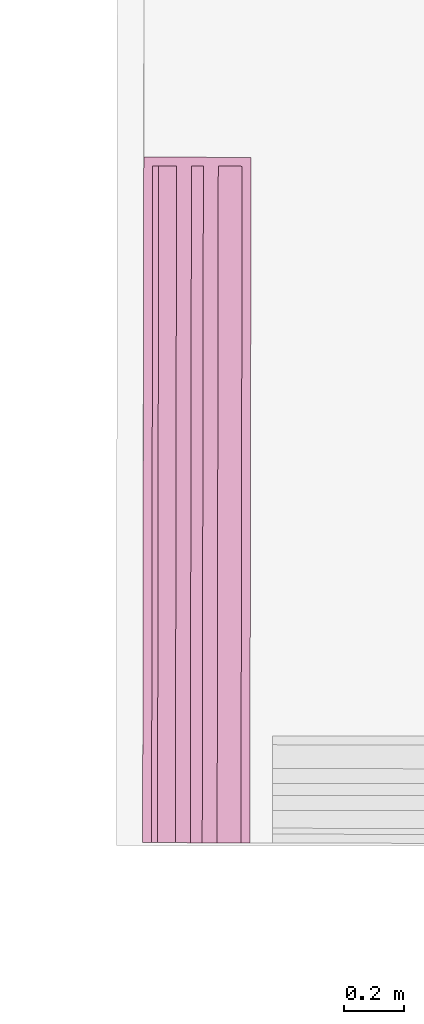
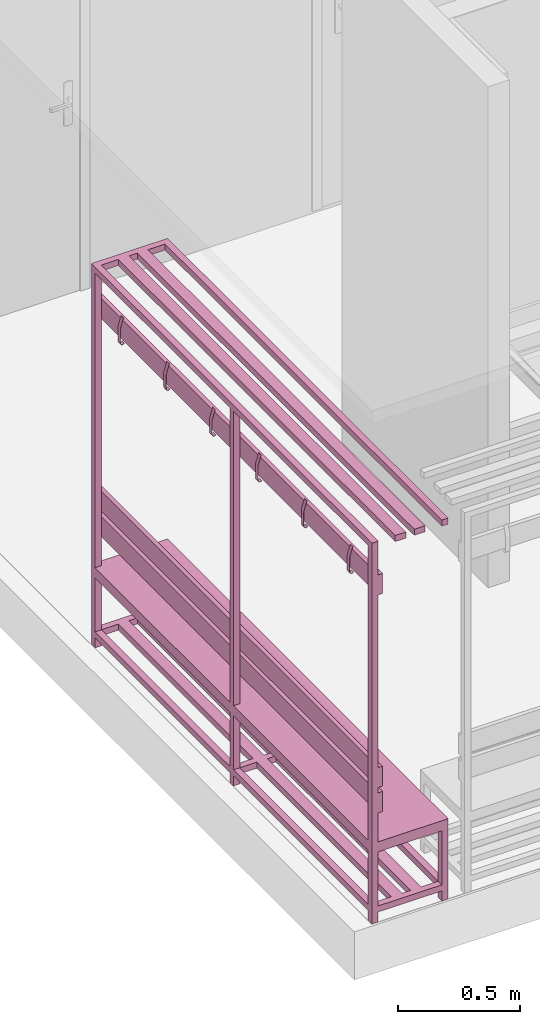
# One storey, part 36 of 43: 1 furnishing.
"""IFC2X3 building model written with IfcOpenShell, lengths in metres."""

from ifc_helpers import new_model, entity, si_unit, converted_unit, derived_unit, direction, frame, frame_2d, origin, origin_2d_with_axis, place, context, subcontext, project, spatial, polyline, circle_curve, parameter, trimmed, segment, composite_curve, rectangle, outline, extrude, source, transform, mapped, material, material_list, type_object, type_shapes, element, save


model = new_model("IFC2X3")

# Units and contexts
model_context = context("Model", 3, precision=1e-05, world=origin(), true_north=direction((6.123233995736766e-17, 1.0)))
body_context = subcontext(model_context, "Body", "Model", "MODEL_VIEW")
ifc_project = project(units=[si_unit("LENGTHUNIT", "METRE"), si_unit("AREAUNIT", "SQUARE_METRE"), converted_unit("PLANEANGLEUNIT", "DEGREE", entity("IfcPlaneAngleMeasure", 0.017453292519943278), si_unit("PLANEANGLEUNIT", "RADIAN"), dimensions=[0, 0, 0, 0, 0, 0, 0]), derived_unit("THERMALTRANSMITTANCEUNIT", [(si_unit("MASSUNIT", "GRAM", prefix="KILO"), 1), (si_unit("THERMODYNAMICTEMPERATUREUNIT", "KELVIN"), -1), (si_unit("TIMEUNIT", "SECOND"), -3)])], contexts=[model_context])

# Site, building, storey
site_placement = place(None, frame((1253.6752467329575, 2072.143113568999, 91.49999999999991), z_axis=(0.0, 0.0, 1.0), x_axis=(0.7237211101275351, 0.6900925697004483, 0.0)))
site = spatial("IfcSite", under=ifc_project, at=site_placement, Name="Surface", CompositionType="ELEMENT")
building_placement = place(site_placement, origin())
building = spatial("IfcBuilding", under=site, at=building_placement, CompositionType="ELEMENT")
storey_placement = place(building_placement, frame((0.0, 0.0, -4.629999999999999)))
storey = spatial("IfcBuildingStorey", under=building, at=storey_placement, Name="rez de rue -1.10m", CompositionType="ELEMENT", Elevation=-4.629999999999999)

# Furnishing
ifc_material_1 = material(Name="Peinture - Grise")
ifc_material_2 = material(Name="<Unnamed>")
ifc_material_3 = material(Name="mat2")
ifc_material_list = material_list([ifc_material_1, ifc_material_2, ifc_material_3])
furniture_type = type_object("IfcFurnitureType", Name="bancpateres:bancpateres", AssemblyPlace="NOTDEFINED", material=ifc_material_list)
shared_shape = source(origin(), body_context, "Body", "SweptSolid", [
    extrude(outline(composite_curve([segment(polyline([(-0.026119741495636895, -0.008725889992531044), (0.04695541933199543, -0.008725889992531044)]), True, "CONTINUOUS"), segment(trimmed(circle_curve(frame_2d((0.04695541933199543, 0.0020852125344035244), x_axis=(-1.0, 0.0)), 0.010811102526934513), [parameter(90.00000000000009)], [parameter(230.9999999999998)], True, "PARAMETER"), True, "CONTINUOUS"), segment(polyline([(0.05375906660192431, 0.010487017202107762), (0.05312974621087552, 0.009709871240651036)]), True, "CONTINUOUS"), segment(trimmed(circle_curve(frame_2d((0.04695541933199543, 0.0020852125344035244), x_axis=(-1.0, 0.0)), 0.009811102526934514), [parameter(90.00000000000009)], [parameter(230.99999999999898)], True, "PARAMETER"), False, "CONTINUOUS"), segment(polyline([(0.04695541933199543, -0.007725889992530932), (-0.025972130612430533, -0.007725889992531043)]), True, "CONTINUOUS"), segment(polyline([(-0.025972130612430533, -0.007725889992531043), (-0.07420942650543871, 0.00683201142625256)]), True, "CONTINUOUS"), segment(polyline([(-0.07420942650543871, 0.00683201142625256), (-0.07449835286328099, 0.005874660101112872)]), True, "CONTINUOUS"), segment(polyline([(-0.07449835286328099, 0.005874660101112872), (-0.026119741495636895, -0.008725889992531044)]), True, "CONTINUOUS")], self_intersect=False)), frame((0.268067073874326, -0.49127411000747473, 6.308572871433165), z_axis=(1.0, 0.0, 0.0), x_axis=(0.0, 0.0, -1.0)), (0.0, 0.0, 1.0), 0.019999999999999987),
    extrude(outline(composite_curve([segment(polyline([(-0.026119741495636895, -0.008725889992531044), (0.04695541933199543, -0.008725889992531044)]), True, "CONTINUOUS"), segment(trimmed(circle_curve(frame_2d((0.04695541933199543, 0.0020852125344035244), x_axis=(-1.0, 0.0)), 0.010811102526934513), [parameter(90.00000000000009)], [parameter(230.9999999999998)], True, "PARAMETER"), True, "CONTINUOUS"), segment(polyline([(0.05375906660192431, 0.010487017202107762), (0.05312974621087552, 0.009709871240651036)]), True, "CONTINUOUS"), segment(trimmed(circle_curve(frame_2d((0.04695541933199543, 0.0020852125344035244), x_axis=(-1.0, 0.0)), 0.009811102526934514), [parameter(90.00000000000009)], [parameter(230.99999999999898)], True, "PARAMETER"), False, "CONTINUOUS"), segment(polyline([(0.04695541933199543, -0.007725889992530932), (-0.025972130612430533, -0.007725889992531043)]), True, "CONTINUOUS"), segment(polyline([(-0.025972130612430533, -0.007725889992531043), (-0.07420942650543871, 0.00683201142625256)]), True, "CONTINUOUS"), segment(polyline([(-0.07420942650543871, 0.00683201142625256), (-0.07449835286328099, 0.005874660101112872)]), True, "CONTINUOUS"), segment(polyline([(-0.07449835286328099, 0.005874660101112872), (-0.026119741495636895, -0.008725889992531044)]), True, "CONTINUOUS")], self_intersect=False)), frame((-0.10793292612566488, -0.49127411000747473, 6.308572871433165), z_axis=(1.0, 0.0, 0.0), x_axis=(0.0, 0.0, -1.0)), (0.0, 0.0, 1.0), 0.020000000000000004),
    extrude(outline(composite_curve([segment(polyline([(-0.026119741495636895, -0.008725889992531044), (0.04695541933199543, -0.008725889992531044)]), True, "CONTINUOUS"), segment(trimmed(circle_curve(frame_2d((0.04695541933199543, 0.0020852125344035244), x_axis=(-1.0, 0.0)), 0.010811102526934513), [parameter(90.00000000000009)], [parameter(230.9999999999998)], True, "PARAMETER"), True, "CONTINUOUS"), segment(polyline([(0.05375906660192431, 0.010487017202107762), (0.05312974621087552, 0.009709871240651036)]), True, "CONTINUOUS"), segment(trimmed(circle_curve(frame_2d((0.04695541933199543, 0.0020852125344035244), x_axis=(-1.0, 0.0)), 0.009811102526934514), [parameter(90.00000000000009)], [parameter(230.99999999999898)], True, "PARAMETER"), False, "CONTINUOUS"), segment(polyline([(0.04695541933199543, -0.007725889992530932), (-0.025972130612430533, -0.007725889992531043)]), True, "CONTINUOUS"), segment(polyline([(-0.025972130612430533, -0.007725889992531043), (-0.07420942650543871, 0.00683201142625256)]), True, "CONTINUOUS"), segment(polyline([(-0.07420942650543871, 0.00683201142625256), (-0.07449835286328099, 0.005874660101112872)]), True, "CONTINUOUS"), segment(polyline([(-0.07449835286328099, 0.005874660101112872), (-0.026119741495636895, -0.008725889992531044)]), True, "CONTINUOUS")], self_intersect=False)), frame((-0.4839329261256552, -0.49127411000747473, 6.308572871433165), z_axis=(1.0, 0.0, 0.0), x_axis=(0.0, 0.0, -1.0)), (0.0, 0.0, 1.0), 0.019999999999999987),
    extrude(outline(composite_curve([segment(polyline([(-0.026119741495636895, -0.008725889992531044), (0.04695541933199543, -0.008725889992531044)]), True, "CONTINUOUS"), segment(trimmed(circle_curve(frame_2d((0.04695541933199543, 0.0020852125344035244), x_axis=(-1.0, 0.0)), 0.010811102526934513), [parameter(90.00000000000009)], [parameter(230.9999999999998)], True, "PARAMETER"), True, "CONTINUOUS"), segment(polyline([(0.05375906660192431, 0.010487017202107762), (0.05312974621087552, 0.009709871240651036)]), True, "CONTINUOUS"), segment(trimmed(circle_curve(frame_2d((0.04695541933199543, 0.0020852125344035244), x_axis=(-1.0, 0.0)), 0.009811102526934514), [parameter(90.00000000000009)], [parameter(230.99999999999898)], True, "PARAMETER"), False, "CONTINUOUS"), segment(polyline([(0.04695541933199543, -0.007725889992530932), (-0.025972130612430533, -0.007725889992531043)]), True, "CONTINUOUS"), segment(polyline([(-0.025972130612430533, -0.007725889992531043), (-0.07420942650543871, 0.00683201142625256)]), True, "CONTINUOUS"), segment(polyline([(-0.07420942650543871, 0.00683201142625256), (-0.07449835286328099, 0.005874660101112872)]), True, "CONTINUOUS"), segment(polyline([(-0.07449835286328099, 0.005874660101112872), (-0.026119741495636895, -0.008725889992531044)]), True, "CONTINUOUS")], self_intersect=False)), frame((-0.8599329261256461, -0.49127411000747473, 6.308572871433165), z_axis=(1.0, 0.0, 0.0), x_axis=(0.0, 0.0, -1.0)), (0.0, 0.0, 1.0), 0.020000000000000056),
    extrude(outline(composite_curve([segment(polyline([(-0.026119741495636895, -0.008725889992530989), (0.04695541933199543, -0.008725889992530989)]), True, "CONTINUOUS"), segment(trimmed(circle_curve(frame_2d((0.04695541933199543, 0.0020852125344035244), x_axis=(-1.0, 0.0)), 0.010811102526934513), [parameter(90.00000000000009)], [parameter(230.9999999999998)], True, "PARAMETER"), True, "CONTINUOUS"), segment(polyline([(0.05375906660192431, 0.010487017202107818), (0.05312974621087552, 0.009709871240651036)]), True, "CONTINUOUS"), segment(trimmed(circle_curve(frame_2d((0.04695541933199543, 0.0020852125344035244), x_axis=(-1.0, 0.0)), 0.009811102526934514), [parameter(90.00000000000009)], [parameter(230.99999999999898)], True, "PARAMETER"), False, "CONTINUOUS"), segment(polyline([(0.04695541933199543, -0.007725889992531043), (-0.025972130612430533, -0.007725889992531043)]), True, "CONTINUOUS"), segment(polyline([(-0.025972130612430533, -0.007725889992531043), (-0.07420942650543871, 0.00683201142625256)]), True, "CONTINUOUS"), segment(polyline([(-0.07420942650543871, 0.00683201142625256), (-0.07449835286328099, 0.005874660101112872)]), True, "CONTINUOUS"), segment(polyline([(-0.07449835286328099, 0.005874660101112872), (-0.026119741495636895, -0.008725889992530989)]), True, "CONTINUOUS")], self_intersect=False)), frame((0.6440670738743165, -0.49127411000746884, 6.308572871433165), z_axis=(1.0, 0.0, 0.0), x_axis=(0.0, 0.0, -1.0)), (0.0, 0.0, 1.0), 0.020000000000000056),
    extrude(outline(composite_curve([segment(polyline([(-0.026119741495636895, -0.008725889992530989), (0.04695541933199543, -0.008725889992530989)]), True, "CONTINUOUS"), segment(trimmed(circle_curve(frame_2d((0.04695541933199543, 0.0020852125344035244), x_axis=(-1.0, 0.0)), 0.010811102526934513), [parameter(90.00000000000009)], [parameter(230.9999999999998)], True, "PARAMETER"), True, "CONTINUOUS"), segment(polyline([(0.05375906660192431, 0.010487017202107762), (0.05312974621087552, 0.00970987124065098)]), True, "CONTINUOUS"), segment(trimmed(circle_curve(frame_2d((0.04695541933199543, 0.0020852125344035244), x_axis=(-1.0, 0.0)), 0.009811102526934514), [parameter(90.00000000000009)], [parameter(230.99999999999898)], True, "PARAMETER"), False, "CONTINUOUS"), segment(polyline([(0.04695541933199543, -0.007725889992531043), (-0.025972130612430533, -0.007725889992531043)]), True, "CONTINUOUS"), segment(polyline([(-0.025972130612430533, -0.007725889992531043), (-0.07420942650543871, 0.00683201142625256)]), True, "CONTINUOUS"), segment(polyline([(-0.07420942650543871, 0.00683201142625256), (-0.07449835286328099, 0.005874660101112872)]), True, "CONTINUOUS"), segment(polyline([(-0.07449835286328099, 0.005874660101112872), (-0.026119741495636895, -0.008725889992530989)]), True, "CONTINUOUS")], self_intersect=False)), frame((-1.2359329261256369, -0.4912741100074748, 6.308572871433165), z_axis=(1.0, 0.0, 0.0), x_axis=(0.0, 0.0, -1.0)), (0.0, 0.0, 1.0), 0.01999999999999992),
    extrude(rectangle(XDim=0.3599999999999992, YDim=0.030000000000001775, at=frame_2d((5.412337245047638e-16, -6.774095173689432e-16), x_axis=(1.0, 0.0))), frame((-0.2859329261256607, -0.33000000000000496, 4.679999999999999), z_axis=(0.0, 0.0, 1.0), x_axis=(0.0, 1.0, 0.0)), (0.0, 0.0, 1.0), 0.03),
    extrude(rectangle(XDim=2.299999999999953, YDim=0.020000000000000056, at=origin_2d_with_axis()), frame((-0.2859329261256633, -0.470000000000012, 6.261999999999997), z_axis=(0.0, 0.0, 1.0), x_axis=(-1.0, 0.0, 0.0)), (0.0, 0.0, 1.0), 0.1),
    extrude(rectangle(XDim=2.299999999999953, YDim=0.01999999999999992, at=frame_2d((0.0, 6.765421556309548e-17), x_axis=(1.0, 0.0))), frame((-0.2859329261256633, -0.47000000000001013, 5.300999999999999), z_axis=(0.0, 0.0, 1.0), x_axis=(-1.0, 0.0, 0.0)), (0.0, 0.0, 1.0), 0.09999999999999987),
    extrude(rectangle(XDim=2.299999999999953, YDim=0.020000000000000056, at=origin_2d_with_axis()), frame((-0.2859329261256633, -0.47000000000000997, 5.173999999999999), z_axis=(0.0, 0.0, 1.0), x_axis=(-1.0, 0.0, 0.0)), (0.0, 0.0, 1.0), 0.09999999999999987),
    extrude(rectangle(XDim=0.02999999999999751, YDim=0.030000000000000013, at=frame_2d((0.0, 3.382710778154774e-17), x_axis=(1.0, 0.0))), frame((-0.2859329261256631, -0.495000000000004, 4.629999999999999), z_axis=(0.0, 0.0, 1.0), x_axis=(-1.0, 0.0, 0.0)), (0.0, 0.0, 1.0), 1.9000000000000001),
    extrude(rectangle(XDim=0.02999999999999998, YDim=0.02999999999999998, at=frame_2d((1.734723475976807e-17, -1.734723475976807e-17), x_axis=(1.0, 0.0))), frame((-0.28593292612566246, -0.16500000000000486, 4.629999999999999), z_axis=(0.0, 0.0, 1.0), x_axis=(-1.0, 0.0, 0.0)), (0.0, 0.0, 1.0), 0.38000000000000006),
    extrude(rectangle(XDim=2.299999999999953, YDim=0.1, at=origin_2d_with_axis()), frame((-0.2859329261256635, -0.46000000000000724, 5.009999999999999), z_axis=(0.0, 0.0, 1.0), x_axis=(-1.0, 0.0, 0.0)), (0.0, 0.0, 1.0), 0.019999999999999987),
    extrude(rectangle(XDim=2.299999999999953, YDim=0.1, at=origin_2d_with_axis()), frame((-0.2859329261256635, -0.40000000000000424, 5.009999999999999), z_axis=(0.0, 0.0, 1.0), x_axis=(-1.0, 0.0, 0.0)), (0.0, 0.0, 1.0), 0.019999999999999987),
    extrude(rectangle(XDim=2.299999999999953, YDim=0.10000000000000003, at=frame_2d((0.0, 1.734723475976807e-17), x_axis=(1.0, 0.0))), frame((-0.2859329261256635, -0.3000000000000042, 5.009999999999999), z_axis=(0.0, 0.0, 1.0), x_axis=(-1.0, 0.0, 0.0)), (0.0, 0.0, 1.0), 0.019999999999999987),
    extrude(rectangle(XDim=2.299999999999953, YDim=0.1, at=origin_2d_with_axis()), frame((-0.2859329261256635, -0.20000000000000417, 5.009999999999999), z_axis=(0.0, 0.0, 1.0), x_axis=(-1.0, 0.0, 0.0)), (0.0, 0.0, 1.0), 0.019999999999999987),
    extrude(rectangle(XDim=0.36000000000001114, YDim=0.029999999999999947, at=frame_2d((0.0, 1.3530843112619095e-16), x_axis=(1.0, 0.0))), frame((-1.4209329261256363, -0.33000000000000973, 4.979999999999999), z_axis=(0.0, 0.0, 1.0), x_axis=(0.0, 1.0, 0.0)), (0.0, 0.0, 1.0), 0.030000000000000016),
    extrude(rectangle(XDim=0.36000000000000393, YDim=0.03000000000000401, at=frame_2d((2.7755575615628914e-17, 0.0), x_axis=(1.0, 0.0))), frame((0.8490670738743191, -0.32999999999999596, 4.979999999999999), z_axis=(0.0, 0.0, 1.0), x_axis=(0.0, 1.0, 0.0)), (0.0, 0.0, 1.0), 0.030000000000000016),
    extrude(rectangle(XDim=2.2999999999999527, YDim=0.030000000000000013, at=frame_2d((0.0, 3.382710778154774e-17), x_axis=(1.0, 0.0))), frame((-0.28593292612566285, -0.4950000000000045, 4.979999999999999), z_axis=(0.0, 0.0, 1.0), x_axis=(-1.0, 0.0, 0.0)), (0.0, 0.0, 1.0), 0.030000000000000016),
    extrude(rectangle(XDim=2.2999999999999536, YDim=0.02999999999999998, at=frame_2d((0.0, -1.734723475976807e-17), x_axis=(1.0, 0.0))), frame((-0.2859329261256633, -0.16500000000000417, 4.979999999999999), z_axis=(0.0, 0.0, 1.0), x_axis=(-1.0, 0.0, 0.0)), (0.0, 0.0, 1.0), 0.030000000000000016),
    extrude(rectangle(XDim=0.36000000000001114, YDim=0.030000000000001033, at=frame_2d((0.0, -1.3617579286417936e-16), x_axis=(1.0, 0.0))), frame((-1.4209329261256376, -0.33000000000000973, 4.679999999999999), z_axis=(0.0, 0.0, 1.0), x_axis=(0.0, 1.0, 0.0)), (0.0, 0.0, 1.0), 0.03),
    extrude(rectangle(XDim=0.3600000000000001, YDim=0.029999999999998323, at=frame_2d((-4.163336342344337e-17, 0.0), x_axis=(1.0, 0.0))), frame((0.849067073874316, -0.3300000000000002, 4.679999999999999), z_axis=(0.0, 0.0, 1.0), x_axis=(0.0, 1.0, 0.0)), (0.0, 0.0, 1.0), 0.03),
    extrude(rectangle(XDim=0.04999999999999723, YDim=2.299999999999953, at=origin_2d_with_axis()), frame((-0.2859329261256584, -0.28500000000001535, 4.679999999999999), z_axis=(0.0, 0.0, 1.0), x_axis=(0.0, 1.0, 0.0)), (0.0, 0.0, 1.0), 0.03),
    extrude(rectangle(XDim=0.0499999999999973, YDim=2.299999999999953, at=frame_2d((3.2959746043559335e-17, 0.0), x_axis=(1.0, 0.0))), frame((-0.2859329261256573, -0.3750000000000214, 4.679999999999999), z_axis=(0.0, 0.0, 1.0), x_axis=(0.0, 1.0, 0.0)), (0.0, 0.0, 1.0), 0.03),
    extrude(rectangle(XDim=2.299999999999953, YDim=0.030000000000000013, at=frame_2d((0.0, 3.382710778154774e-17), x_axis=(1.0, 0.0))), frame((-0.2859329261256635, -0.4950000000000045, 4.679999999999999), z_axis=(0.0, 0.0, 1.0), x_axis=(-1.0, 0.0, 0.0)), (0.0, 0.0, 1.0), 0.03),
    extrude(rectangle(XDim=2.299999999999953, YDim=0.02999999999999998, at=frame_2d((0.0, -1.734723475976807e-17), x_axis=(1.0, 0.0))), frame((-0.2859329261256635, -0.16500000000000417, 4.679999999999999), z_axis=(0.0, 0.0, 1.0), x_axis=(-1.0, 0.0, 0.0)), (0.0, 0.0, 1.0), 0.03),
    extrude(rectangle(XDim=0.03000000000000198, YDim=0.030000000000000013, at=frame_2d((6.765421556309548e-17, -3.382710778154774e-17), x_axis=(1.0, 0.0))), frame((0.8490670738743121, -0.49500000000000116, 4.629999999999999), z_axis=(0.0, 0.0, 1.0), x_axis=(-1.0, 0.0, 0.0)), (0.0, 0.0, 1.0), 1.9000000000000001),
    extrude(rectangle(XDim=0.030000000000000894, YDim=0.02999999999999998, at=frame_2d((6.852157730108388e-17, -1.734723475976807e-17), x_axis=(1.0, 0.0))), frame((0.8490670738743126, -0.16500000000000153, 4.629999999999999), z_axis=(0.0, 0.0, 1.0), x_axis=(-1.0, 0.0, 0.0)), (0.0, 0.0, 1.0), 0.38000000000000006),
    extrude(rectangle(XDim=0.030000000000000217, YDim=0.030000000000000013, at=frame_2d((0.0, -3.382710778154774e-17), x_axis=(1.0, 0.0))), frame((-1.4209329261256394, -0.4950000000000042, 4.629999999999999), z_axis=(0.0, 0.0, 1.0), x_axis=(-1.0, 0.0, 0.0)), (0.0, 0.0, 1.0), 1.9000000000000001),
    extrude(rectangle(XDim=0.030000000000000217, YDim=0.02999999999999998, at=frame_2d((0.0, -1.734723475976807e-17), x_axis=(1.0, 0.0))), frame((-1.42093292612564, -0.16500000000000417, 4.629999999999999), z_axis=(0.0, 0.0, 1.0), x_axis=(-1.0, 0.0, 0.0)), (0.0, 0.0, 1.0), 0.38000000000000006),
    extrude(rectangle(XDim=0.3600000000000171, YDim=0.029999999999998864, at=frame_2d((0.0, -1.3530843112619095e-16), x_axis=(1.0, 0.0))), frame((-1.4209329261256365, -0.33000000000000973, 6.499999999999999), z_axis=(0.0, 0.0, 1.0), x_axis=(0.0, 1.0, 0.0)), (0.0, 0.0, 1.0), 0.029999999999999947),
    extrude(rectangle(XDim=0.049999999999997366, YDim=2.299999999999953, at=origin_2d_with_axis()), frame((-0.28593292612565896, -0.28500000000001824, 6.499999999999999), z_axis=(0.0, 0.0, 1.0), x_axis=(0.0, 1.0, 0.0)), (0.0, 0.0, 1.0), 0.029999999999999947),
    extrude(rectangle(XDim=0.0499999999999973, YDim=2.299999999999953, at=frame_2d((-3.469446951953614e-17, -1.1102230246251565e-16), x_axis=(1.0, 0.0))), frame((-0.2859329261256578, -0.37500000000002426, 6.499999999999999), z_axis=(0.0, 0.0, 1.0), x_axis=(0.0, 1.0, 0.0)), (0.0, 0.0, 1.0), 0.029999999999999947),
    extrude(rectangle(XDim=2.2999999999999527, YDim=0.030000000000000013, at=frame_2d((0.0, -3.382710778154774e-17), x_axis=(1.0, 0.0))), frame((-0.2859329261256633, -0.4950000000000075, 6.499999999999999), z_axis=(0.0, 0.0, 1.0), x_axis=(-1.0, 0.0, 0.0)), (0.0, 0.0, 1.0), 0.029999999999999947),
    extrude(rectangle(XDim=2.2999999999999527, YDim=0.02999999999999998, at=frame_2d((0.0, -1.734723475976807e-17), x_axis=(1.0, 0.0))), frame((-0.2859329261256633, -0.16500000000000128, 6.499999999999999), z_axis=(0.0, 0.0, 1.0), x_axis=(-1.0, 0.0, 0.0)), (0.0, 0.0, 1.0), 0.029999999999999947),
])
type_shapes(furniture_type, [shared_shape])
furnishing_placement = place(storey_placement, frame((161.03515855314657, 1.3079995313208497, -4.629999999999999), z_axis=(0.0, 0.0, 1.0), x_axis=(-0.6913251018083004, -0.7225438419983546, 0.0)))
element("IfcFurnishingElement", 1, at=furnishing_placement, inside=storey, type_object=furniture_type, material=ifc_material_list, Name="bancpateres:bancpateres", ObjectType="bancpateres:bancpateres", context=body_context, shape_type="MappedRepresentation", body=[
    mapped(shared_shape, transform((0.0, 0.0, 0.0), scale=1.0)),
])

save(model, "model.ifc")
